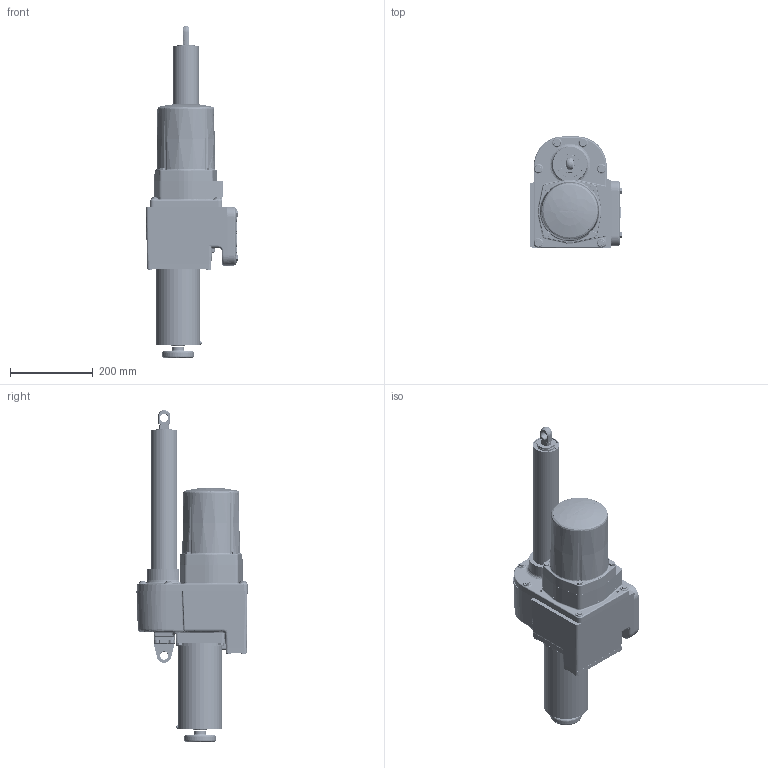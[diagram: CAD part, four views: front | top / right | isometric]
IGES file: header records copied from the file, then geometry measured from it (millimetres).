
Start section: SolidWorks IGES file using analytic representation for surfaces
Global section: file name: N:\Engineering\Product Support\Outline Dimension Models\42-1xx\IGES+STEP\18-4217-01_12_solid.IGS; native system: SolidWorks 2009; preprocessor: SolidWorks 2009; author: jmack; date: 110708.081648; units: inch
Bounding box: 222.58 x 268.45 x 801.9 mm (x, y, z)
Surface area: 1498491.1 mm2 (no closed solid volume)
Topology: 0 solids, 0 shells, 4216 faces, 52125 edges, 51794 vertices
Faces by surface type: revolution 2315, bspline 1901
